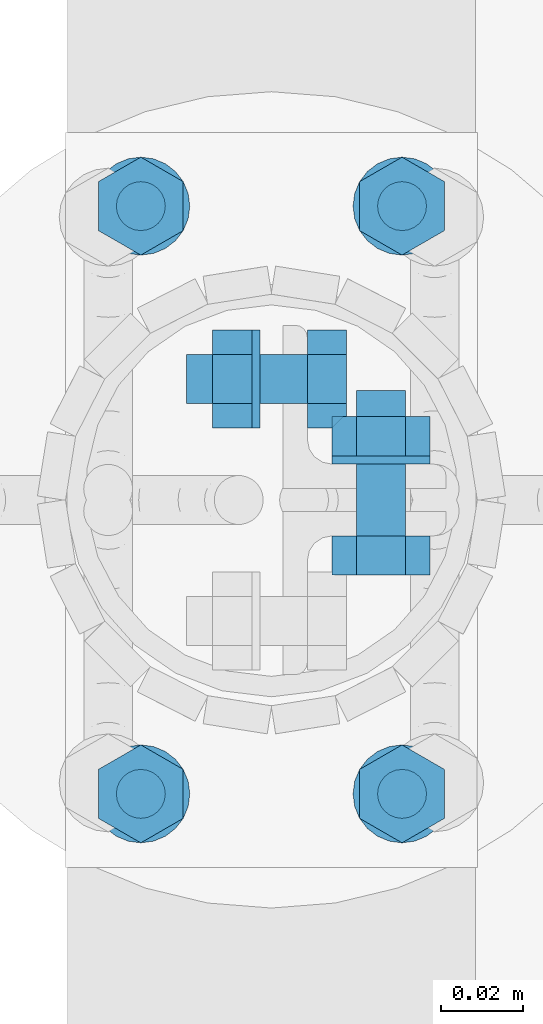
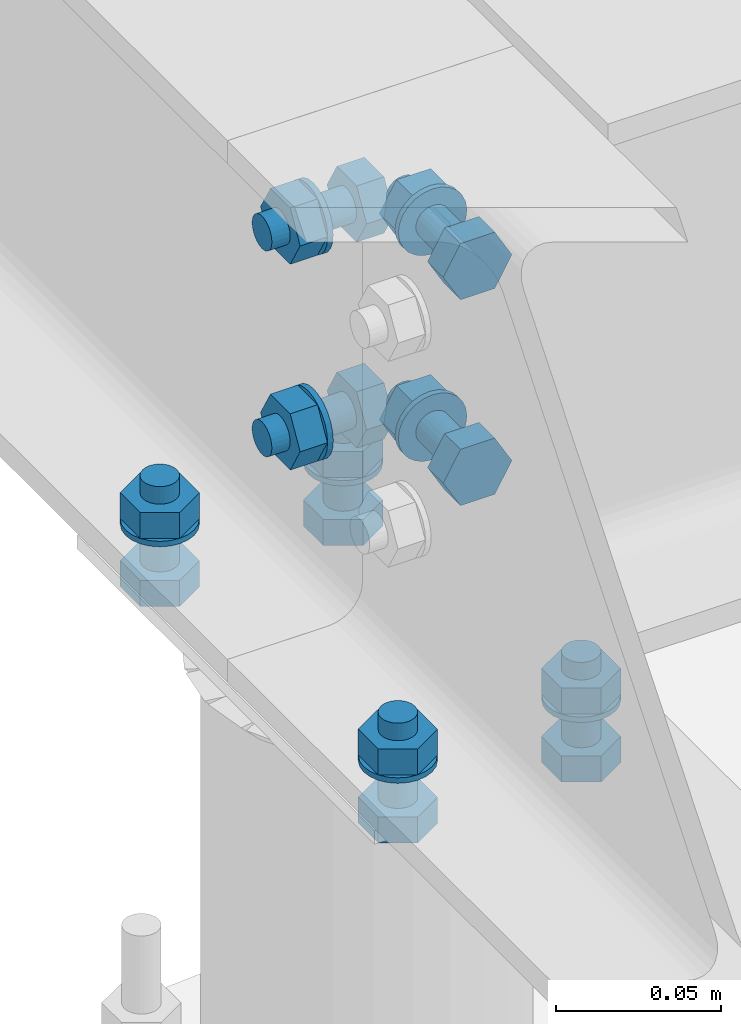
# One storey, part 50 of 84: 40 mechanical fasteners.
"""IFC4 building model written with IfcOpenShell, lengths in metres."""

import ifcopenshell
import ifcopenshell.guid

model = None  # the IFC model being written
_history = None  # IfcOwnerHistory: only IFC2X3 demands one
_inside = {}  # id of a spatial element -> (the spatial element, [elements in it])
_under = {}  # id of a project, library or spatial element -> (it, [spatial elements below it])
_declared = {}  # id of a project -> (the project, [libraries it declares])
_typed = {}  # id of a type object -> (the type object, [elements of that type])
_made_of = {}  # id of a material, layer set ... -> (it, [elements and type objects made of it])


def new_model(schema):
    """Start an empty IFC model of exactly this schema.

    Asked for "IFC4X3", IfcOpenShell would pick the latest addendum, in which some entities
    have other attributes; the version numbers below select the first issue.
    IFC2X3 requires an IfcOwnerHistory on every rooted entity: one is made here for all.
    """
    global model, _history
    if schema == "IFC4X3":
        model = ifcopenshell.file(schema_version=(4, 3, 0, 0))
    else:
        model = ifcopenshell.file(schema=schema)
    _inside.clear()
    _under.clear()
    _declared.clear()
    _typed.clear()
    _made_of.clear()
    _history = None
    if model.schema == "IFC2X3":
        org = make("IfcOrganization", Name="unknown")
        user = make(
            "IfcPersonAndOrganization",
            ThePerson=make("IfcPerson", FamilyName="unknown"),
            TheOrganization=org,
        )
        app = make(
            "IfcApplication",
            ApplicationDeveloper=org,
            Version="unknown",
            ApplicationFullName="unknown",
            ApplicationIdentifier="unknown",
        )
        _history = make(
            "IfcOwnerHistory",
            OwningUser=user,
            OwningApplication=app,
            ChangeAction="ADDED",
            CreationDate=0,
        )
    return model


def make(cls, **values):
    """One entity of the class cls with the attributes given. An attribute that is None is left unset."""
    return model.create_entity(
        cls, **{name: value for name, value in values.items() if value is not None}
    )


def rooted(cls, **values):
    """An entity with a GlobalId (a new one), such as an element, a storey or a relation."""
    return make(cls, GlobalId=ifcopenshell.guid.new(), OwnerHistory=_history, **values)


def si_unit(unit_type, name, prefix=None):
    """IfcSIUnit, for example si_unit("LENGTHUNIT", "METRE", prefix="MILLI")."""
    return make("IfcSIUnit", UnitType=unit_type, Prefix=prefix, Name=name)


def assignment(units):
    """IfcUnitAssignment: the units of a project."""
    return None if units is None else make("IfcUnitAssignment", Units=units)


def point(xyz):
    """IfcCartesianPoint."""
    return None if xyz is None else make("IfcCartesianPoint", Coordinates=xyz)


def direction(xyz):
    """IfcDirection."""
    return None if xyz is None else make("IfcDirection", DirectionRatios=xyz)


def frame(location, z_axis=None, x_axis=None):
    """IfcAxis2Placement3D, a coordinate frame: its origin and axes. An axis left out is left unset."""
    return make(
        "IfcAxis2Placement3D",
        Location=point(location),
        Axis=direction(z_axis),
        RefDirection=direction(x_axis),
    )


def origin_with_axes():
    """The frame at (0, 0, 0) with the z axis (0, 0, 1) and the x axis (1, 0, 0) written out."""
    return frame((0.0, 0.0, 0.0), z_axis=(0.0, 0.0, 1.0), x_axis=(1.0, 0.0, 0.0))


def place(relative_to, where):
    """IfcLocalPlacement: puts the frame where relative to a parent placement (None: the world)."""
    return make(
        "IfcLocalPlacement", PlacementRelTo=relative_to, RelativePlacement=where
    )


def context(
    kind, dimensions, precision=None, world=None, true_north=None, identifier=None
):
    """IfcGeometricRepresentationContext, for example the 3D "Model" context."""
    return make(
        "IfcGeometricRepresentationContext",
        ContextIdentifier=identifier,
        ContextType=kind,
        CoordinateSpaceDimension=dimensions,
        Precision=precision,
        WorldCoordinateSystem=world,
        TrueNorth=true_north,
    )


def project(units=None, contexts=None):
    """IfcProject with its units and contexts."""
    return rooted(
        "IfcProject",
        Name="project",
        RepresentationContexts=contexts,
        UnitsInContext=assignment(units),
    )


def spatial(cls, under=None, at=None, **own):
    """A site, building, storey or space (cls), placed at a placement, below another one or the project."""
    s = rooted(cls, ObjectPlacement=at, **own)
    if under is not None:
        _under.setdefault(under.id(), (under, []))[1].append(s)
    return s


def polyline(points):
    """IfcPolyline through the points."""
    return make("IfcPolyline", Points=[point(p) for p in points])


def outline(outer, holes=None, kind="AREA"):
    """IfcArbitraryClosedProfileDef: a profile drawn as a closed curve; with holes, ...WithVoids."""
    if holes is None:
        return make("IfcArbitraryClosedProfileDef", ProfileType=kind, OuterCurve=outer)
    return make(
        "IfcArbitraryProfileDefWithVoids",
        ProfileType=kind,
        OuterCurve=outer,
        InnerCurves=holes,
    )


def extrude(swept, where, along, depth):
    """IfcExtrudedAreaSolid: the profile swept, set in the frame where, extruded along a direction by depth."""
    return make(
        "IfcExtrudedAreaSolid",
        SweptArea=swept,
        Position=where,
        ExtrudedDirection=direction(along),
        Depth=depth,
    )


def shape(context_of_items, identifier, shape_type, items):
    """IfcShapeRepresentation: the items that make up one representation, for example the "Body"."""
    return make(
        "IfcShapeRepresentation",
        ContextOfItems=context_of_items,
        RepresentationIdentifier=identifier,
        RepresentationType=shape_type,
        Items=items,
    )


def made_of(thing, what):
    """Note that an element or type object is made of a material, layer set ...; save() writes the relation."""
    if what is not None:
        _made_of.setdefault(what.id(), (what, []))[1].append(thing)
    return thing


def type_object(cls, material=None, **own):
    """A type object (cls), such as IfcWallType, which elements share."""
    return made_of(rooted(cls, **own), material)


def element(
    cls,
    number,
    at=None,
    inside=None,
    cuts=None,
    type_object=None,
    material=None,
    context=None,
    identifier="Body",
    shape_type=None,
    held_by="IfcProductDefinitionShape",
    body=None,
    shapes=None,
    **own,
):
    """One element of the class cls, such as IfcWall. Its Tag is "e" and its number.

    at: its placement. inside: the storey or other place that contains it. cuts: it is an
    opening in that element (IfcRelVoidsElement). A single representation is given by context,
    identifier, shape_type and body (its items); several are given by shapes. held_by: the class
    of the entity that holds the representations. save() writes the other relations.
    """
    e = rooted(cls, Tag="e%d" % number, ObjectPlacement=at, **own)
    if body is not None:
        shapes = [shape(context, identifier, shape_type, body)]
    if shapes is not None:
        e.Representation = make(held_by, Representations=shapes)
    if inside is not None:
        _inside.setdefault(inside.id(), (inside, []))[1].append(e)
    if cuts is not None:
        rooted(
            "IfcRelVoidsElement", RelatingBuildingElement=cuts, RelatedOpeningElement=e
        )
    if type_object is not None:
        _typed.setdefault(type_object.id(), (type_object, []))[1].append(e)
    return made_of(e, material)


def aggregate(whole, parts):
    """IfcRelAggregates: a whole, such as a stair, and the parts it consists of."""
    return rooted("IfcRelAggregates", RelatingObject=whole, RelatedObjects=parts)


def save(model, path):
    """Write the relations noted so far, then the file.

    IfcRelAggregates (storeys below a building ...), IfcRelContainedInSpatialStructure (elements
    in a storey), IfcRelDefinesByType, IfcRelAssociatesMaterial and IfcRelDeclares: one each for
    every whole, place, type object, material and project.
    """
    for whole, parts in _under.values():
        aggregate(whole, parts)
    for where, things in _inside.values():
        rooted(
            "IfcRelContainedInSpatialStructure",
            RelatedElements=things,
            RelatingStructure=where,
        )
    for kind, things in _typed.values():
        rooted("IfcRelDefinesByType", RelatedObjects=things, RelatingType=kind)
    for what, things in _made_of.values():
        rooted("IfcRelAssociatesMaterial", RelatedObjects=things, RelatingMaterial=what)
    for by, libraries in _declared.values():
        rooted("IfcRelDeclares", RelatingContext=by, RelatedDefinitions=libraries)
    model.write(path)


model = new_model("IFC4")

# Units and contexts
model_context = context("Model", 3, precision=1e-05, world=origin_with_axes())
ifc_project = project(units=[si_unit("LENGTHUNIT", "METRE"), si_unit("AREAUNIT", "SQUARE_METRE"), si_unit("VOLUMEUNIT", "CUBIC_METRE"), si_unit("MASSUNIT", "GRAM", prefix="KILO"), si_unit("TIMEUNIT", "SECOND"), si_unit("PLANEANGLEUNIT", "RADIAN"), si_unit("SOLIDANGLEUNIT", "STERADIAN"), si_unit("THERMODYNAMICTEMPERATUREUNIT", "DEGREE_CELSIUS")], contexts=[model_context])

# Site, building, storey
placement_1 = place(None, origin_with_axes())
site = spatial("IfcSite", under=ifc_project, at=placement_1, Name="Italia", CompositionType="ELEMENT")
building = spatial("IfcBuilding", under=site, at=placement_1, Name="Tettoia", CompositionType="ELEMENT")
storey_placement = place(None, frame((0.0, 0.0, 4.199999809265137), z_axis=(0.0, 0.0, 1.0), x_axis=(1.0, 0.0, 0.0)))
storey = spatial("IfcBuildingStorey", under=building, at=storey_placement, Name="Storey 1", CompositionType="ELEMENT", Elevation=4.199999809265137)

# Mechanical fasteners
mechanical_fastener_type_1 = type_object("IfcMechanicalFastenerType", Name="Collegamento 0111_-011", PredefinedType="BOLT")
placement_2 = place(placement_1, origin_with_axes())
mechanical_fastener_1_placement = place(placement_2, origin_with_axes())
element("IfcMechanicalFastener", 1, at=mechanical_fastener_1_placement, inside=storey, type_object=mechanical_fastener_type_1, Name="Collegamento 0111_-011", NominalDiameter=0.0119998, context=model_context, shape_type="SweptSolid", body=[
    extrude(outline(polyline([(0.0, 0.0), (0.0120001, 0.0), (0.0179996, -0.0103923), (0.0120001, -0.0207846), (0.0, -0.0207846), (-0.00599957, -0.0103923), (0.0, 0.0)])), frame((0.142392, 14.016, 4.195), z_axis=(0.0, 0.0, -1.0), x_axis=(0.0, 1.0, 0.0)), (0.0, 0.0, 1.0), 0.00959969),
])
mechanical_fastener_type_2 = type_object("IfcMechanicalFastenerType", Name="Collegamento 0111_-011", PredefinedType="BOLT")
mechanical_fastener_2_placement = place(placement_2, origin_with_axes())
element("IfcMechanicalFastener", 2, at=mechanical_fastener_2_placement, inside=storey, type_object=mechanical_fastener_type_2, Name="Collegamento 0111_-011", NominalDiameter=0.012, context=model_context, shape_type="SweptSolid", body=[
    extrude(outline(polyline([(0.0, 0.0), (-0.000204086, -0.00155291), (-0.000802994, -0.00300001), (-0.00175667, -0.00424264), (-0.00299931, -0.00519615), (-0.00444698, -0.00579555), (-0.00599957, -0.006), (-0.00755215, -0.00579555), (-0.00899982, -0.00519615), (-0.0102425, -0.00424264), (-0.0111961, -0.00300001), (-0.011795, -0.00155291), (-0.0119991, 0.0), (-0.011795, 0.00155291), (-0.0111961, 0.00300001), (-0.0102425, 0.00424264), (-0.00899982, 0.00519615), (-0.00755215, 0.00579555), (-0.00599957, 0.006), (-0.00444698, 0.00579555), (-0.00299931, 0.00519615), (-0.00175667, 0.00424264), (-0.000802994, 0.00299999), (-0.000204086, 0.00155291), (0.0, 0.0)])), frame((0.132, 14.028, 4.2265), z_axis=(0.0, 0.0, -1.0), x_axis=(0.0, 1.0, 0.0)), (0.0, 0.0, 1.0), 0.0315003),
])
mechanical_fastener_type_3 = type_object("IfcMechanicalFastenerType", Name="Collegamento 0111_-011", PredefinedType="BOLT")
mechanical_fastener_3_placement = place(placement_2, origin_with_axes())
element("IfcMechanicalFastener", 3, at=mechanical_fastener_3_placement, inside=storey, type_object=mechanical_fastener_type_3, Name="Collegamento 0111_-011", NominalDiameter=0.0119998, context=model_context, shape_type="SweptSolid", body=[
    extrude(outline(polyline([(0.0, 0.0), (0.0120001, 0.0), (0.0179996, -0.0103923), (0.0120001, -0.0207846), (0.0, -0.0207846), (-0.00599957, -0.0103923), (0.0, 0.0)])), frame((0.142392, 14.016, 4.2201), z_axis=(0.0, 0.0, -1.0), x_axis=(0.0, 1.0, 0.0)), (0.0, 0.0, 1.0), 0.00960016),
])
mechanical_fastener_type_4 = type_object("IfcMechanicalFastenerType", Name="Collegamento 0111_-011", PredefinedType="BOLT")
mechanical_fastener_4_placement = place(placement_2, origin_with_axes())
element("IfcMechanicalFastener", 4, at=mechanical_fastener_4_placement, inside=storey, type_object=mechanical_fastener_type_4, Name="Collegamento 0111_-011", NominalDiameter=0.024, context=model_context, shape_type="SweptSolid", body=[
    extrude(outline(polyline([(0.0, 0.0), (-0.000409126, -0.00310583), (-0.00160789, -0.006), (-0.00351524, -0.00848528), (-0.00600052, -0.0103923), (-0.00889397, -0.0115911), (-0.0120001, -0.012), (-0.0151062, -0.0115911), (-0.0179996, -0.0103923), (-0.0204849, -0.00848528), (-0.0223923, -0.006), (-0.023591, -0.00310583), (-0.0240002, 0.0), (-0.023591, 0.00310583), (-0.0223923, 0.006), (-0.0204849, 0.00848529), (-0.0179996, 0.0103923), (-0.0151062, 0.0115911), (-0.0120001, 0.012), (-0.00889397, 0.0115911), (-0.00600052, 0.0103923), (-0.00351524, 0.00848527), (-0.00160789, 0.006), (-0.000409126, 0.00310582), (0.0, 0.0)])), frame((0.132, 14.034, 4.2105), z_axis=(0.0, 0.0, -1.0), x_axis=(0.0, 1.0, 0.0)), (0.0, 0.0, 1.0), 0.00199986),
])
mechanical_fastener_type_5 = type_object("IfcMechanicalFastenerType", Name="Collegamento 0111_-011", PredefinedType="BOLT")
mechanical_fastener_5_placement = place(placement_2, origin_with_axes())
element("IfcMechanicalFastener", 5, at=mechanical_fastener_5_placement, inside=storey, type_object=mechanical_fastener_type_5, Name="Collegamento 0111_-011", NominalDiameter=0.0119998, context=model_context, shape_type="SweptSolid", body=[
    extrude(outline(polyline([(0.0, 0.0), (0.0120001, 0.0), (0.0179996, -0.0103923), (0.0120001, -0.0207846), (0.0, -0.0207846), (-0.00599957, -0.0103923), (0.0, 0.0)])), frame((0.142392, 13.872, 4.195), z_axis=(0.0, 0.0, -1.0), x_axis=(0.0, 1.0, 0.0)), (0.0, 0.0, 1.0), 0.00959969),
])
mechanical_fastener_type_6 = type_object("IfcMechanicalFastenerType", Name="Collegamento 0111_-011", PredefinedType="BOLT")
mechanical_fastener_6_placement = place(placement_2, origin_with_axes())
element("IfcMechanicalFastener", 6, at=mechanical_fastener_6_placement, inside=storey, type_object=mechanical_fastener_type_6, Name="Collegamento 0111_-011", NominalDiameter=0.012, context=model_context, shape_type="SweptSolid", body=[
    extrude(outline(polyline([(0.0, 0.0), (-0.000204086, -0.00155291), (-0.000802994, -0.00300001), (-0.00175667, -0.00424264), (-0.00299931, -0.00519615), (-0.00444698, -0.00579555), (-0.00599957, -0.006), (-0.00755215, -0.00579555), (-0.00899982, -0.00519615), (-0.0102425, -0.00424264), (-0.0111961, -0.00300001), (-0.011795, -0.00155291), (-0.0119991, 0.0), (-0.011795, 0.00155291), (-0.0111961, 0.00300001), (-0.0102425, 0.00424264), (-0.00899982, 0.00519615), (-0.00755215, 0.00579555), (-0.00599957, 0.006), (-0.00444698, 0.00579555), (-0.00299931, 0.00519615), (-0.00175667, 0.00424264), (-0.000802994, 0.00299999), (-0.000204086, 0.00155291), (0.0, 0.0)])), frame((0.132, 13.884, 4.2265), z_axis=(0.0, 0.0, -1.0), x_axis=(0.0, 1.0, 0.0)), (0.0, 0.0, 1.0), 0.0315003),
])
mechanical_fastener_type_7 = type_object("IfcMechanicalFastenerType", Name="Collegamento 0111_-011", PredefinedType="BOLT")
mechanical_fastener_7_placement = place(placement_2, origin_with_axes())
element("IfcMechanicalFastener", 7, at=mechanical_fastener_7_placement, inside=storey, type_object=mechanical_fastener_type_7, Name="Collegamento 0111_-011", NominalDiameter=0.0119998, context=model_context, shape_type="SweptSolid", body=[
    extrude(outline(polyline([(0.0, 0.0), (0.0120001, 0.0), (0.0179996, -0.0103923), (0.0120001, -0.0207846), (0.0, -0.0207846), (-0.00599957, -0.0103923), (0.0, 0.0)])), frame((0.142392, 13.872, 4.2201), z_axis=(0.0, 0.0, -1.0), x_axis=(0.0, 1.0, 0.0)), (0.0, 0.0, 1.0), 0.00960016),
])
mechanical_fastener_type_8 = type_object("IfcMechanicalFastenerType", Name="Collegamento 0111_-011", PredefinedType="BOLT")
mechanical_fastener_8_placement = place(placement_2, origin_with_axes())
element("IfcMechanicalFastener", 8, at=mechanical_fastener_8_placement, inside=storey, type_object=mechanical_fastener_type_8, Name="Collegamento 0111_-011", NominalDiameter=0.024, context=model_context, shape_type="SweptSolid", body=[
    extrude(outline(polyline([(0.0, 0.0), (-0.000409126, -0.00310583), (-0.00160789, -0.006), (-0.00351524, -0.00848528), (-0.00600052, -0.0103923), (-0.00889397, -0.0115911), (-0.0120001, -0.012), (-0.0151062, -0.0115911), (-0.0179996, -0.0103923), (-0.0204849, -0.00848528), (-0.0223923, -0.006), (-0.023591, -0.00310583), (-0.0240002, 0.0), (-0.023591, 0.00310583), (-0.0223923, 0.006), (-0.0204849, 0.00848529), (-0.0179996, 0.0103923), (-0.0151062, 0.0115911), (-0.0120001, 0.012), (-0.00889397, 0.0115911), (-0.00600052, 0.0103923), (-0.00351524, 0.00848527), (-0.00160789, 0.006), (-0.000409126, 0.00310582), (0.0, 0.0)])), frame((0.132, 13.89, 4.2105), z_axis=(0.0, 0.0, -1.0), x_axis=(0.0, 1.0, 0.0)), (0.0, 0.0, 1.0), 0.00199986),
])
mechanical_fastener_type_9 = type_object("IfcMechanicalFastenerType", Name="Collegamento 0111_-011", PredefinedType="BOLT")
mechanical_fastener_9_placement = place(placement_2, origin_with_axes())
element("IfcMechanicalFastener", 9, at=mechanical_fastener_9_placement, inside=storey, type_object=mechanical_fastener_type_9, Name="Collegamento 0111_-011", NominalDiameter=0.0119998, context=model_context, shape_type="SweptSolid", body=[
    extrude(outline(polyline([(0.0, 0.0), (0.0120001, 0.0), (0.0179996, -0.0103923), (0.0120001, -0.0207846), (0.0, -0.0207846), (-0.00599957, -0.0103923), (0.0, 0.0)])), frame((0.0783923, 14.016, 4.195), z_axis=(0.0, 0.0, -1.0), x_axis=(0.0, 1.0, 0.0)), (0.0, 0.0, 1.0), 0.00959969),
])
mechanical_fastener_type_10 = type_object("IfcMechanicalFastenerType", Name="Collegamento 0111_-011", PredefinedType="BOLT")
mechanical_fastener_10_placement = place(placement_2, origin_with_axes())
element("IfcMechanicalFastener", 10, at=mechanical_fastener_10_placement, inside=storey, type_object=mechanical_fastener_type_10, Name="Collegamento 0111_-011", NominalDiameter=0.012, context=model_context, shape_type="SweptSolid", body=[
    extrude(outline(polyline([(0.0, 0.0), (-0.000204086, -0.00155292), (-0.000802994, -0.003), (-0.00175667, -0.00424264), (-0.00299931, -0.00519615), (-0.00444698, -0.00579555), (-0.00599957, -0.006), (-0.00755215, -0.00579555), (-0.00899982, -0.00519615), (-0.0102425, -0.00424264), (-0.0111961, -0.003), (-0.011795, -0.00155292), (-0.0119991, 0.0), (-0.011795, 0.00155292), (-0.0111961, 0.003), (-0.0102425, 0.00424264), (-0.00899982, 0.00519615), (-0.00755215, 0.00579555), (-0.00599957, 0.006), (-0.00444698, 0.00579555), (-0.00299931, 0.00519615), (-0.00175667, 0.00424264), (-0.000802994, 0.003), (-0.000204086, 0.00155291), (0.0, 0.0)])), frame((0.068, 14.028, 4.2265), z_axis=(0.0, 0.0, -1.0), x_axis=(0.0, 1.0, 0.0)), (0.0, 0.0, 1.0), 0.0315003),
])
mechanical_fastener_type_11 = type_object("IfcMechanicalFastenerType", Name="Collegamento 0111_-011", PredefinedType="BOLT")
mechanical_fastener_11_placement = place(placement_2, origin_with_axes())
element("IfcMechanicalFastener", 11, at=mechanical_fastener_11_placement, inside=storey, type_object=mechanical_fastener_type_11, Name="Collegamento 0111_-011", NominalDiameter=0.0119998, context=model_context, shape_type="SweptSolid", body=[
    extrude(outline(polyline([(0.0, 0.0), (0.0120001, 0.0), (0.0179996, -0.0103923), (0.0120001, -0.0207846), (0.0, -0.0207846), (-0.00599957, -0.0103923), (0.0, 0.0)])), frame((0.0783923, 14.016, 4.2201), z_axis=(0.0, 0.0, -1.0), x_axis=(0.0, 1.0, 0.0)), (0.0, 0.0, 1.0), 0.00960016),
])
mechanical_fastener_type_12 = type_object("IfcMechanicalFastenerType", Name="Collegamento 0111_-011", PredefinedType="BOLT")
mechanical_fastener_12_placement = place(placement_2, origin_with_axes())
element("IfcMechanicalFastener", 12, at=mechanical_fastener_12_placement, inside=storey, type_object=mechanical_fastener_type_12, Name="Collegamento 0111_-011", NominalDiameter=0.024, context=model_context, shape_type="SweptSolid", body=[
    extrude(outline(polyline([(0.0, 0.0), (-0.000409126, -0.00310583), (-0.00160789, -0.006), (-0.00351524, -0.00848528), (-0.00600052, -0.0103923), (-0.00889397, -0.0115911), (-0.0120001, -0.012), (-0.0151062, -0.0115911), (-0.0179996, -0.0103923), (-0.0204849, -0.00848528), (-0.0223923, -0.006), (-0.023591, -0.00310583), (-0.0240002, 0.0), (-0.023591, 0.00310583), (-0.0223923, 0.006), (-0.0204849, 0.00848528), (-0.0179996, 0.0103923), (-0.0151062, 0.0115911), (-0.0120001, 0.012), (-0.00889397, 0.0115911), (-0.00600052, 0.0103923), (-0.00351524, 0.00848528), (-0.00160789, 0.006), (-0.000409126, 0.00310583), (0.0, 0.0)])), frame((0.068, 14.034, 4.2105), z_axis=(0.0, 0.0, -1.0), x_axis=(0.0, 1.0, 0.0)), (0.0, 0.0, 1.0), 0.00199986),
])
mechanical_fastener_type_13 = type_object("IfcMechanicalFastenerType", Name="Collegamento 0111_-011", PredefinedType="BOLT")
mechanical_fastener_13_placement = place(placement_2, origin_with_axes())
element("IfcMechanicalFastener", 13, at=mechanical_fastener_13_placement, inside=storey, type_object=mechanical_fastener_type_13, Name="Collegamento 0111_-011", NominalDiameter=0.0119998, context=model_context, shape_type="SweptSolid", body=[
    extrude(outline(polyline([(0.0, 0.0), (0.0120001, 0.0), (0.0179996, -0.0103923), (0.0120001, -0.0207846), (0.0, -0.0207846), (-0.00599957, -0.0103923), (0.0, 0.0)])), frame((0.0783923, 13.872, 4.195), z_axis=(0.0, 0.0, -1.0), x_axis=(0.0, 1.0, 0.0)), (0.0, 0.0, 1.0), 0.00959969),
])
mechanical_fastener_type_14 = type_object("IfcMechanicalFastenerType", Name="Collegamento 0111_-011", PredefinedType="BOLT")
mechanical_fastener_14_placement = place(placement_2, origin_with_axes())
element("IfcMechanicalFastener", 14, at=mechanical_fastener_14_placement, inside=storey, type_object=mechanical_fastener_type_14, Name="Collegamento 0111_-011", NominalDiameter=0.012, context=model_context, shape_type="SweptSolid", body=[
    extrude(outline(polyline([(0.0, 0.0), (-0.000204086, -0.00155292), (-0.000802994, -0.003), (-0.00175667, -0.00424264), (-0.00299931, -0.00519615), (-0.00444698, -0.00579555), (-0.00599957, -0.006), (-0.00755215, -0.00579555), (-0.00899982, -0.00519615), (-0.0102425, -0.00424264), (-0.0111961, -0.003), (-0.011795, -0.00155292), (-0.0119991, 0.0), (-0.011795, 0.00155292), (-0.0111961, 0.003), (-0.0102425, 0.00424264), (-0.00899982, 0.00519615), (-0.00755215, 0.00579555), (-0.00599957, 0.006), (-0.00444698, 0.00579555), (-0.00299931, 0.00519615), (-0.00175667, 0.00424264), (-0.000802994, 0.003), (-0.000204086, 0.00155291), (0.0, 0.0)])), frame((0.068, 13.884, 4.2265), z_axis=(0.0, 0.0, -1.0), x_axis=(0.0, 1.0, 0.0)), (0.0, 0.0, 1.0), 0.0315003),
])
mechanical_fastener_type_15 = type_object("IfcMechanicalFastenerType", Name="Collegamento 0111_-011", PredefinedType="BOLT")
mechanical_fastener_15_placement = place(placement_2, origin_with_axes())
element("IfcMechanicalFastener", 15, at=mechanical_fastener_15_placement, inside=storey, type_object=mechanical_fastener_type_15, Name="Collegamento 0111_-011", NominalDiameter=0.0119998, context=model_context, shape_type="SweptSolid", body=[
    extrude(outline(polyline([(0.0, 0.0), (0.0120001, 0.0), (0.0179996, -0.0103923), (0.0120001, -0.0207846), (0.0, -0.0207846), (-0.00599957, -0.0103923), (0.0, 0.0)])), frame((0.0783923, 13.872, 4.2201), z_axis=(0.0, 0.0, -1.0), x_axis=(0.0, 1.0, 0.0)), (0.0, 0.0, 1.0), 0.00960016),
])
mechanical_fastener_type_16 = type_object("IfcMechanicalFastenerType", Name="Collegamento 0111_-011", PredefinedType="BOLT")
mechanical_fastener_16_placement = place(placement_2, origin_with_axes())
element("IfcMechanicalFastener", 16, at=mechanical_fastener_16_placement, inside=storey, type_object=mechanical_fastener_type_16, Name="Collegamento 0111_-011", NominalDiameter=0.024, context=model_context, shape_type="SweptSolid", body=[
    extrude(outline(polyline([(0.0, 0.0), (-0.000409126, -0.00310583), (-0.00160789, -0.006), (-0.00351524, -0.00848528), (-0.00600052, -0.0103923), (-0.00889397, -0.0115911), (-0.0120001, -0.012), (-0.0151062, -0.0115911), (-0.0179996, -0.0103923), (-0.0204849, -0.00848528), (-0.0223923, -0.006), (-0.023591, -0.00310583), (-0.0240002, 0.0), (-0.023591, 0.00310583), (-0.0223923, 0.006), (-0.0204849, 0.00848528), (-0.0179996, 0.0103923), (-0.0151062, 0.0115911), (-0.0120001, 0.012), (-0.00889397, 0.0115911), (-0.00600052, 0.0103923), (-0.00351524, 0.00848528), (-0.00160789, 0.006), (-0.000409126, 0.00310583), (0.0, 0.0)])), frame((0.068, 13.89, 4.2105), z_axis=(0.0, 0.0, -1.0), x_axis=(0.0, 1.0, 0.0)), (0.0, 0.0, 1.0), 0.00199986),
])
mechanical_fastener_type_17 = type_object("IfcMechanicalFastenerType", Name="Collegamento 0111_0112", PredefinedType="BOLT")
mechanical_fastener_17_placement = place(placement_2, origin_with_axes())
element("IfcMechanicalFastener", 17, at=mechanical_fastener_17_placement, inside=storey, type_object=mechanical_fastener_type_17, Name="Collegamento 0111_0112", NominalDiameter=0.0119999, context=model_context, shape_type="SweptSolid", body=[
    extrude(outline(polyline([(0.0, 0.0), (-0.012, 0.0), (-0.018, 0.0103922), (-0.012, 0.0207844), (0.0, 0.0207844), (0.006, 0.0103922), (0.0, 0.0)])), frame((0.1328, 13.9412, 4.25161), z_axis=(0.0, -1.0, 0.0), x_axis=(1.0, 0.0, 0.0)), (0.0, 0.0, 1.0), 0.00960064),
])
mechanical_fastener_type_18 = type_object("IfcMechanicalFastenerType", Name="Collegamento 0111_0112", PredefinedType="BOLT")
mechanical_fastener_18_placement = place(placement_2, origin_with_axes())
element("IfcMechanicalFastener", 18, at=mechanical_fastener_18_placement, inside=storey, type_object=mechanical_fastener_type_18, Name="Collegamento 0111_0112", NominalDiameter=0.012, context=model_context, shape_type="SweptSolid", body=[
    extrude(outline(polyline([(0.0, 0.0), (-0.000204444, -0.00155306), (-0.000803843, -0.00299978), (-0.00175735, -0.00424242), (-0.00299999, -0.00519609), (-0.00444709, -0.00579548), (-0.006, -0.00600004), (-0.00755291, -0.00579548), (-0.009, -0.00519609), (-0.0102426, -0.00424242), (-0.0111962, -0.00299978), (-0.0117956, -0.00155306), (-0.012, 0.0), (-0.0117956, 0.00155306), (-0.0111962, 0.00299978), (-0.0102426, 0.00424242), (-0.009, 0.00519609), (-0.00755291, 0.00579548), (-0.006, 0.00600004), (-0.00444709, 0.00579548), (-0.00299999, 0.00519609), (-0.00175735, 0.00424242), (-0.000803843, 0.00299978), (-0.000204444, 0.00155306), (0.0, 0.0)])), frame((0.1328, 13.9768, 4.262), z_axis=(0.0, -1.0, 0.0), x_axis=(1.0, 0.0, 0.0)), (0.0, 0.0, 1.0), 0.0355997),
])
mechanical_fastener_type_19 = type_object("IfcMechanicalFastenerType", Name="Collegamento 0111_0112", PredefinedType="BOLT")
mechanical_fastener_19_placement = place(placement_2, origin_with_axes())
element("IfcMechanicalFastener", 19, at=mechanical_fastener_19_placement, inside=storey, type_object=mechanical_fastener_type_19, Name="Collegamento 0111_0112", NominalDiameter=0.0119999, context=model_context, shape_type="SweptSolid", body=[
    extrude(outline(polyline([(0.0, 0.0), (-0.012, 0.0), (-0.018, 0.0103922), (-0.012, 0.0207844), (0.0, 0.0207844), (0.006, 0.0103922), (0.0, 0.0)])), frame((0.1328, 13.9704, 4.25161), z_axis=(0.0, -1.0, 0.0), x_axis=(1.0, 0.0, 0.0)), (0.0, 0.0, 1.0), 0.00959969),
])
mechanical_fastener_type_20 = type_object("IfcMechanicalFastenerType", Name="Collegamento 0111_0112", PredefinedType="BOLT")
mechanical_fastener_20_placement = place(placement_2, origin_with_axes())
element("IfcMechanicalFastener", 20, at=mechanical_fastener_20_placement, inside=storey, type_object=mechanical_fastener_type_20, Name="Collegamento 0111_0112", NominalDiameter=0.024, context=model_context, shape_type="SweptSolid", body=[
    extrude(outline(polyline([(0.0, 0.0), (-0.000408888, -0.00310564), (-0.00160769, -0.00600004), (-0.00351471, -0.00848532), (-0.006, -0.0103922), (-0.00889416, -0.011591), (-0.012, -0.0120001), (-0.0151058, -0.011591), (-0.018, -0.0103922), (-0.0204853, -0.00848532), (-0.0223923, -0.00600004), (-0.0235911, -0.00310564), (-0.024, 0.0), (-0.0235911, 0.00310564), (-0.0223923, 0.00600004), (-0.0204853, 0.00848532), (-0.018, 0.0103922), (-0.0151058, 0.011591), (-0.012, 0.0120001), (-0.00889416, 0.011591), (-0.006, 0.0103922), (-0.00351471, 0.00848532), (-0.00160769, 0.00600004), (-0.000408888, 0.00310564), (0.0, 0.0)])), frame((0.1388, 13.9608, 4.262), z_axis=(0.0, -1.0, 0.0), x_axis=(1.0, 0.0, 0.0)), (0.0, 0.0, 1.0), 0.00200081),
])
mechanical_fastener_type_21 = type_object("IfcMechanicalFastenerType", Name="Collegamento 0111_0112", PredefinedType="BOLT")
mechanical_fastener_21_placement = place(placement_2, origin_with_axes())
element("IfcMechanicalFastener", 21, at=mechanical_fastener_21_placement, inside=storey, type_object=mechanical_fastener_type_21, Name="Collegamento 0111_0112", NominalDiameter=0.0119999, context=model_context, shape_type="SweptSolid", body=[
    extrude(outline(polyline([(0.0, 0.0), (-0.012, 0.0), (-0.018, 0.0103922), (-0.012, 0.0207844), (0.0, 0.0207844), (0.006, 0.0103922), (0.0, 0.0)])), frame((0.1328, 13.9412, 4.32761), z_axis=(0.0, -1.0, 0.0), x_axis=(1.0, 0.0, 0.0)), (0.0, 0.0, 1.0), 0.00960064),
])
mechanical_fastener_type_22 = type_object("IfcMechanicalFastenerType", Name="Collegamento 0111_0112", PredefinedType="BOLT")
mechanical_fastener_22_placement = place(placement_2, origin_with_axes())
element("IfcMechanicalFastener", 22, at=mechanical_fastener_22_placement, inside=storey, type_object=mechanical_fastener_type_22, Name="Collegamento 0111_0112", NominalDiameter=0.012, context=model_context, shape_type="SweptSolid", body=[
    extrude(outline(polyline([(0.0, 0.0), (-0.000204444, -0.00155306), (-0.000803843, -0.00299978), (-0.00175735, -0.00424242), (-0.00299999, -0.00519609), (-0.00444709, -0.00579548), (-0.006, -0.00600004), (-0.00755291, -0.00579548), (-0.009, -0.00519609), (-0.0102426, -0.00424242), (-0.0111962, -0.00299978), (-0.0117956, -0.00155306), (-0.012, 0.0), (-0.0117956, 0.00155306), (-0.0111962, 0.00299978), (-0.0102426, 0.00424242), (-0.009, 0.00519609), (-0.00755291, 0.00579548), (-0.006, 0.00600004), (-0.00444709, 0.00579548), (-0.00299999, 0.00519609), (-0.00175735, 0.00424242), (-0.000803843, 0.00299978), (-0.000204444, 0.00155306), (0.0, 0.0)])), frame((0.1328, 13.9768, 4.338), z_axis=(0.0, -1.0, 0.0), x_axis=(1.0, 0.0, 0.0)), (0.0, 0.0, 1.0), 0.0355997),
])
mechanical_fastener_type_23 = type_object("IfcMechanicalFastenerType", Name="Collegamento 0111_0112", PredefinedType="BOLT")
mechanical_fastener_23_placement = place(placement_2, origin_with_axes())
element("IfcMechanicalFastener", 23, at=mechanical_fastener_23_placement, inside=storey, type_object=mechanical_fastener_type_23, Name="Collegamento 0111_0112", NominalDiameter=0.0119999, context=model_context, shape_type="SweptSolid", body=[
    extrude(outline(polyline([(0.0, 0.0), (-0.012, 0.0), (-0.018, 0.0103922), (-0.012, 0.0207844), (0.0, 0.0207844), (0.006, 0.0103922), (0.0, 0.0)])), frame((0.1328, 13.9704, 4.32761), z_axis=(0.0, -1.0, 0.0), x_axis=(1.0, 0.0, 0.0)), (0.0, 0.0, 1.0), 0.00959969),
])
mechanical_fastener_type_24 = type_object("IfcMechanicalFastenerType", Name="Collegamento 0111_0112", PredefinedType="BOLT")
mechanical_fastener_24_placement = place(placement_2, origin_with_axes())
element("IfcMechanicalFastener", 24, at=mechanical_fastener_24_placement, inside=storey, type_object=mechanical_fastener_type_24, Name="Collegamento 0111_0112", NominalDiameter=0.024, context=model_context, shape_type="SweptSolid", body=[
    extrude(outline(polyline([(0.0, 0.0), (-0.000408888, -0.00310564), (-0.00160769, -0.00600004), (-0.00351471, -0.00848532), (-0.006, -0.0103922), (-0.00889416, -0.011591), (-0.012, -0.0120001), (-0.0151058, -0.011591), (-0.018, -0.0103922), (-0.0204853, -0.00848532), (-0.0223923, -0.00600004), (-0.0235911, -0.00310564), (-0.024, 0.0), (-0.0235911, 0.00310564), (-0.0223923, 0.00600004), (-0.0204853, 0.00848532), (-0.018, 0.0103922), (-0.0151058, 0.011591), (-0.012, 0.0120001), (-0.00889416, 0.011591), (-0.006, 0.0103922), (-0.00351471, 0.00848532), (-0.00160769, 0.00600004), (-0.000408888, 0.00310564), (0.0, 0.0)])), frame((0.1388, 13.9608, 4.338), z_axis=(0.0, -1.0, 0.0), x_axis=(1.0, 0.0, 0.0)), (0.0, 0.0, 1.0), 0.00200081),
])
mechanical_fastener_type_25 = type_object("IfcMechanicalFastenerType", Name="Collegamento 0111_0112", PredefinedType="BOLT")
mechanical_fastener_25_placement = place(placement_2, origin_with_axes())
element("IfcMechanicalFastener", 25, at=mechanical_fastener_25_placement, inside=storey, type_object=mechanical_fastener_type_25, Name="Collegamento 0111_0112", NominalDiameter=0.0119999, context=model_context, shape_type="SweptSolid", body=[
    extrude(outline(polyline([(0.0, 0.0), (-0.012, 0.0), (-0.018, 0.0103922), (-0.012, 0.0207844), (0.0, 0.0207844), (0.006, 0.0103922), (0.0, 0.0)])), frame((0.1328, 13.9412, 4.25161), z_axis=(0.0, -1.0, 0.0), x_axis=(1.0, 0.0, 0.0)), (0.0, 0.0, 1.0), 0.00960064),
])
mechanical_fastener_type_26 = type_object("IfcMechanicalFastenerType", Name="Collegamento 0111_0112", PredefinedType="BOLT")
mechanical_fastener_26_placement = place(placement_2, origin_with_axes())
element("IfcMechanicalFastener", 26, at=mechanical_fastener_26_placement, inside=storey, type_object=mechanical_fastener_type_26, Name="Collegamento 0111_0112", NominalDiameter=0.012, context=model_context, shape_type="SweptSolid", body=[
    extrude(outline(polyline([(0.0, 0.0), (-0.000204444, -0.00155306), (-0.000803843, -0.00299978), (-0.00175735, -0.00424242), (-0.00299999, -0.00519609), (-0.00444709, -0.00579548), (-0.006, -0.00600004), (-0.00755291, -0.00579548), (-0.009, -0.00519609), (-0.0102426, -0.00424242), (-0.0111962, -0.00299978), (-0.0117956, -0.00155306), (-0.012, 0.0), (-0.0117956, 0.00155306), (-0.0111962, 0.00299978), (-0.0102426, 0.00424242), (-0.009, 0.00519609), (-0.00755291, 0.00579548), (-0.006, 0.00600004), (-0.00444709, 0.00579548), (-0.00299999, 0.00519609), (-0.00175735, 0.00424242), (-0.000803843, 0.00299978), (-0.000204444, 0.00155306), (0.0, 0.0)])), frame((0.1328, 13.9768, 4.262), z_axis=(0.0, -1.0, 0.0), x_axis=(1.0, 0.0, 0.0)), (0.0, 0.0, 1.0), 0.0355997),
])
mechanical_fastener_type_27 = type_object("IfcMechanicalFastenerType", Name="Collegamento 0111_0112", PredefinedType="BOLT")
mechanical_fastener_27_placement = place(placement_2, origin_with_axes())
element("IfcMechanicalFastener", 27, at=mechanical_fastener_27_placement, inside=storey, type_object=mechanical_fastener_type_27, Name="Collegamento 0111_0112", NominalDiameter=0.0119999, context=model_context, shape_type="SweptSolid", body=[
    extrude(outline(polyline([(0.0, 0.0), (-0.012, 0.0), (-0.018, 0.0103922), (-0.012, 0.0207844), (0.0, 0.0207844), (0.006, 0.0103922), (0.0, 0.0)])), frame((0.1328, 13.9704, 4.25161), z_axis=(0.0, -1.0, 0.0), x_axis=(1.0, 0.0, 0.0)), (0.0, 0.0, 1.0), 0.00959969),
])
mechanical_fastener_type_28 = type_object("IfcMechanicalFastenerType", Name="Collegamento 0111_0112", PredefinedType="BOLT")
mechanical_fastener_28_placement = place(placement_2, origin_with_axes())
element("IfcMechanicalFastener", 28, at=mechanical_fastener_28_placement, inside=storey, type_object=mechanical_fastener_type_28, Name="Collegamento 0111_0112", NominalDiameter=0.024, context=model_context, shape_type="SweptSolid", body=[
    extrude(outline(polyline([(0.0, 0.0), (-0.000408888, -0.00310564), (-0.00160769, -0.00600004), (-0.00351471, -0.00848532), (-0.006, -0.0103922), (-0.00889416, -0.011591), (-0.012, -0.0120001), (-0.0151058, -0.011591), (-0.018, -0.0103922), (-0.0204853, -0.00848532), (-0.0223923, -0.00600004), (-0.0235911, -0.00310564), (-0.024, 0.0), (-0.0235911, 0.00310564), (-0.0223923, 0.00600004), (-0.0204853, 0.00848532), (-0.018, 0.0103922), (-0.0151058, 0.011591), (-0.012, 0.0120001), (-0.00889416, 0.011591), (-0.006, 0.0103922), (-0.00351471, 0.00848532), (-0.00160769, 0.00600004), (-0.000408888, 0.00310564), (0.0, 0.0)])), frame((0.1388, 13.9608, 4.262), z_axis=(0.0, -1.0, 0.0), x_axis=(1.0, 0.0, 0.0)), (0.0, 0.0, 1.0), 0.00200081),
])
mechanical_fastener_type_29 = type_object("IfcMechanicalFastenerType", Name="Collegamento 0111_0112", PredefinedType="BOLT")
mechanical_fastener_29_placement = place(placement_2, origin_with_axes())
element("IfcMechanicalFastener", 29, at=mechanical_fastener_29_placement, inside=storey, type_object=mechanical_fastener_type_29, Name="Collegamento 0111_0112", NominalDiameter=0.0119999, context=model_context, shape_type="SweptSolid", body=[
    extrude(outline(polyline([(0.0, 0.0), (-0.012, 0.0), (-0.018, 0.0103922), (-0.012, 0.0207844), (0.0, 0.0207844), (0.006, 0.0103922), (0.0, 0.0)])), frame((0.1328, 13.9412, 4.32761), z_axis=(0.0, -1.0, 0.0), x_axis=(1.0, 0.0, 0.0)), (0.0, 0.0, 1.0), 0.00960064),
])
mechanical_fastener_type_30 = type_object("IfcMechanicalFastenerType", Name="Collegamento 0111_0112", PredefinedType="BOLT")
mechanical_fastener_30_placement = place(placement_2, origin_with_axes())
element("IfcMechanicalFastener", 30, at=mechanical_fastener_30_placement, inside=storey, type_object=mechanical_fastener_type_30, Name="Collegamento 0111_0112", NominalDiameter=0.012, context=model_context, shape_type="SweptSolid", body=[
    extrude(outline(polyline([(0.0, 0.0), (-0.000204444, -0.00155306), (-0.000803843, -0.00299978), (-0.00175735, -0.00424242), (-0.00299999, -0.00519609), (-0.00444709, -0.00579548), (-0.006, -0.00600004), (-0.00755291, -0.00579548), (-0.009, -0.00519609), (-0.0102426, -0.00424242), (-0.0111962, -0.00299978), (-0.0117956, -0.00155306), (-0.012, 0.0), (-0.0117956, 0.00155306), (-0.0111962, 0.00299978), (-0.0102426, 0.00424242), (-0.009, 0.00519609), (-0.00755291, 0.00579548), (-0.006, 0.00600004), (-0.00444709, 0.00579548), (-0.00299999, 0.00519609), (-0.00175735, 0.00424242), (-0.000803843, 0.00299978), (-0.000204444, 0.00155306), (0.0, 0.0)])), frame((0.1328, 13.9768, 4.338), z_axis=(0.0, -1.0, 0.0), x_axis=(1.0, 0.0, 0.0)), (0.0, 0.0, 1.0), 0.0355997),
])
mechanical_fastener_type_31 = type_object("IfcMechanicalFastenerType", Name="Collegamento 0111_0112", PredefinedType="BOLT")
mechanical_fastener_31_placement = place(placement_2, origin_with_axes())
element("IfcMechanicalFastener", 31, at=mechanical_fastener_31_placement, inside=storey, type_object=mechanical_fastener_type_31, Name="Collegamento 0111_0112", NominalDiameter=0.0119999, context=model_context, shape_type="SweptSolid", body=[
    extrude(outline(polyline([(0.0, 0.0), (-0.012, 0.0), (-0.018, 0.0103922), (-0.012, 0.0207844), (0.0, 0.0207844), (0.006, 0.0103922), (0.0, 0.0)])), frame((0.1328, 13.9704, 4.32761), z_axis=(0.0, -1.0, 0.0), x_axis=(1.0, 0.0, 0.0)), (0.0, 0.0, 1.0), 0.00959969),
])
mechanical_fastener_type_32 = type_object("IfcMechanicalFastenerType", Name="Collegamento 0111_0112", PredefinedType="BOLT")
mechanical_fastener_32_placement = place(placement_2, origin_with_axes())
element("IfcMechanicalFastener", 32, at=mechanical_fastener_32_placement, inside=storey, type_object=mechanical_fastener_type_32, Name="Collegamento 0111_0112", NominalDiameter=0.024, context=model_context, shape_type="SweptSolid", body=[
    extrude(outline(polyline([(0.0, 0.0), (-0.000408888, -0.00310564), (-0.00160769, -0.00600004), (-0.00351471, -0.00848532), (-0.006, -0.0103922), (-0.00889416, -0.011591), (-0.012, -0.0120001), (-0.0151058, -0.011591), (-0.018, -0.0103922), (-0.0204853, -0.00848532), (-0.0223923, -0.00600004), (-0.0235911, -0.00310564), (-0.024, 0.0), (-0.0235911, 0.00310564), (-0.0223923, 0.00600004), (-0.0204853, 0.00848532), (-0.018, 0.0103922), (-0.0151058, 0.011591), (-0.012, 0.0120001), (-0.00889416, 0.011591), (-0.006, 0.0103922), (-0.00351471, 0.00848532), (-0.00160769, 0.00600004), (-0.000408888, 0.00310564), (0.0, 0.0)])), frame((0.1388, 13.9608, 4.338), z_axis=(0.0, -1.0, 0.0), x_axis=(1.0, 0.0, 0.0)), (0.0, 0.0, 1.0), 0.00200081),
])
mechanical_fastener_type_33 = type_object("IfcMechanicalFastenerType", Name="Collegamento 0111_0112", PredefinedType="BOLT")
mechanical_fastener_33_placement = place(placement_2, origin_with_axes())
element("IfcMechanicalFastener", 33, at=mechanical_fastener_33_placement, inside=storey, type_object=mechanical_fastener_type_33, Name="Collegamento 0111_0112", NominalDiameter=0.0119997, context=model_context, shape_type="SweptSolid", body=[
    extrude(outline(polyline([(0.0, 0.0), (-0.0120001, 0.0), (-0.0179996, 0.0103922), (-0.0120001, 0.0207844), (0.0, 0.0207844), (0.00600052, 0.0103922), (0.0, 0.0)])), frame((0.1088, 13.9856, 4.25161), z_axis=(1.0, 0.0, 0.0), x_axis=(0.0, 1.0, 0.0)), (0.0, 0.0, 1.0), 0.0096),
])
mechanical_fastener_type_34 = type_object("IfcMechanicalFastenerType", Name="Collegamento 0111_0112", PredefinedType="BOLT")
mechanical_fastener_34_placement = place(placement_2, origin_with_axes())
element("IfcMechanicalFastener", 34, at=mechanical_fastener_34_placement, inside=storey, type_object=mechanical_fastener_type_34, Name="Collegamento 0111_0112", NominalDiameter=0.012, context=model_context, shape_type="SweptSolid", body=[
    extrude(outline(polyline([(0.0, 0.0), (-0.000204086, -0.00155306), (-0.000802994, -0.00299978), (-0.00175667, -0.00424242), (-0.00299931, -0.00519609), (-0.00444698, -0.00579548), (-0.00599957, -0.00600004), (-0.00755215, -0.00579548), (-0.00899982, -0.00519609), (-0.0102425, -0.00424242), (-0.0111961, -0.00299978), (-0.011795, -0.00155306), (-0.0119991, 0.0), (-0.011795, 0.00155306), (-0.0111961, 0.00299978), (-0.0102425, 0.00424242), (-0.00899982, 0.00519609), (-0.00755215, 0.00579548), (-0.00599957, 0.00600004), (-0.00444698, 0.00579548), (-0.00299931, 0.00519609), (-0.00175667, 0.00424242), (-0.000802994, 0.00299978), (-0.000204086, 0.00155306), (0.0, 0.0)])), frame((0.0791999, 13.9856, 4.262), z_axis=(1.0, 0.0, 0.0), x_axis=(0.0, 1.0, 0.0)), (0.0, 0.0, 1.0), 0.0296),
])
mechanical_fastener_type_35 = type_object("IfcMechanicalFastenerType", Name="Collegamento 0111_0112", PredefinedType="BOLT")
mechanical_fastener_35_placement = place(placement_2, origin_with_axes())
element("IfcMechanicalFastener", 35, at=mechanical_fastener_35_placement, inside=storey, type_object=mechanical_fastener_type_35, Name="Collegamento 0111_0112", NominalDiameter=0.0119997, context=model_context, shape_type="SweptSolid", body=[
    extrude(outline(polyline([(0.0, 0.0), (-0.0120001, 0.0), (-0.0179996, 0.0103922), (-0.0120001, 0.0207844), (0.0, 0.0207844), (0.00600052, 0.0103922), (0.0, 0.0)])), frame((0.0855999, 13.9856, 4.25161), z_axis=(1.0, 0.0, 0.0), x_axis=(0.0, 1.0, 0.0)), (0.0, 0.0, 1.0), 0.0096),
])
mechanical_fastener_type_36 = type_object("IfcMechanicalFastenerType", Name="Collegamento 0111_0112", PredefinedType="BOLT")
mechanical_fastener_36_placement = place(placement_2, origin_with_axes())
element("IfcMechanicalFastener", 36, at=mechanical_fastener_36_placement, inside=storey, type_object=mechanical_fastener_type_36, Name="Collegamento 0111_0112", NominalDiameter=0.024, context=model_context, shape_type="SweptSolid", body=[
    extrude(outline(polyline([(0.0, 0.0), (-0.000409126, -0.00310564), (-0.00160789, -0.00600004), (-0.00351524, -0.00848532), (-0.00600052, -0.0103922), (-0.00889397, -0.011591), (-0.0120001, -0.0120001), (-0.0151062, -0.011591), (-0.0179996, -0.0103922), (-0.0204849, -0.00848532), (-0.0223923, -0.00600004), (-0.023591, -0.00310564), (-0.0240002, 0.0), (-0.023591, 0.00310564), (-0.0223923, 0.00600004), (-0.0204849, 0.00848532), (-0.0179996, 0.0103922), (-0.0151062, 0.011591), (-0.0120001, 0.0120001), (-0.00889397, 0.011591), (-0.00600052, 0.0103922), (-0.00351524, 0.00848532), (-0.00160789, 0.00600004), (-0.000409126, 0.00310564), (0.0, 0.0)])), frame((0.0951999, 13.9916, 4.262), z_axis=(1.0, 0.0, 0.0), x_axis=(0.0, 1.0, 0.0)), (0.0, 0.0, 1.0), 0.002),
])
mechanical_fastener_type_37 = type_object("IfcMechanicalFastenerType", Name="Collegamento 0111_0112", PredefinedType="BOLT")
mechanical_fastener_37_placement = place(placement_2, origin_with_axes())
element("IfcMechanicalFastener", 37, at=mechanical_fastener_37_placement, inside=storey, type_object=mechanical_fastener_type_37, Name="Collegamento 0111_0112", NominalDiameter=0.0119997, context=model_context, shape_type="SweptSolid", body=[
    extrude(outline(polyline([(0.0, 0.0), (-0.0120001, 0.0), (-0.0179996, 0.0103922), (-0.0120001, 0.0207844), (0.0, 0.0207844), (0.00600052, 0.0103922), (0.0, 0.0)])), frame((0.1088, 13.9856, 4.32761), z_axis=(1.0, 0.0, 0.0), x_axis=(0.0, 1.0, 0.0)), (0.0, 0.0, 1.0), 0.0096),
])
mechanical_fastener_type_38 = type_object("IfcMechanicalFastenerType", Name="Collegamento 0111_0112", PredefinedType="BOLT")
mechanical_fastener_38_placement = place(placement_2, origin_with_axes())
element("IfcMechanicalFastener", 38, at=mechanical_fastener_38_placement, inside=storey, type_object=mechanical_fastener_type_38, Name="Collegamento 0111_0112", NominalDiameter=0.012, context=model_context, shape_type="SweptSolid", body=[
    extrude(outline(polyline([(0.0, 0.0), (-0.000204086, -0.00155306), (-0.000802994, -0.00299978), (-0.00175667, -0.00424242), (-0.00299931, -0.00519609), (-0.00444698, -0.00579548), (-0.00599957, -0.00600004), (-0.00755215, -0.00579548), (-0.00899982, -0.00519609), (-0.0102425, -0.00424242), (-0.0111961, -0.00299978), (-0.011795, -0.00155306), (-0.0119991, 0.0), (-0.011795, 0.00155306), (-0.0111961, 0.00299978), (-0.0102425, 0.00424242), (-0.00899982, 0.00519609), (-0.00755215, 0.00579548), (-0.00599957, 0.00600004), (-0.00444698, 0.00579548), (-0.00299931, 0.00519609), (-0.00175667, 0.00424242), (-0.000802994, 0.00299978), (-0.000204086, 0.00155306), (0.0, 0.0)])), frame((0.0791999, 13.9856, 4.338), z_axis=(1.0, 0.0, 0.0), x_axis=(0.0, 1.0, 0.0)), (0.0, 0.0, 1.0), 0.0296),
])
mechanical_fastener_type_39 = type_object("IfcMechanicalFastenerType", Name="Collegamento 0111_0112", PredefinedType="BOLT")
mechanical_fastener_39_placement = place(placement_2, origin_with_axes())
element("IfcMechanicalFastener", 39, at=mechanical_fastener_39_placement, inside=storey, type_object=mechanical_fastener_type_39, Name="Collegamento 0111_0112", NominalDiameter=0.0119997, context=model_context, shape_type="SweptSolid", body=[
    extrude(outline(polyline([(0.0, 0.0), (-0.0120001, 0.0), (-0.0179996, 0.0103922), (-0.0120001, 0.0207844), (0.0, 0.0207844), (0.00600052, 0.0103922), (0.0, 0.0)])), frame((0.0855999, 13.9856, 4.32761), z_axis=(1.0, 0.0, 0.0), x_axis=(0.0, 1.0, 0.0)), (0.0, 0.0, 1.0), 0.0096),
])
mechanical_fastener_type_40 = type_object("IfcMechanicalFastenerType", Name="Collegamento 0111_0112", PredefinedType="BOLT")
mechanical_fastener_40_placement = place(placement_2, origin_with_axes())
element("IfcMechanicalFastener", 40, at=mechanical_fastener_40_placement, inside=storey, type_object=mechanical_fastener_type_40, Name="Collegamento 0111_0112", NominalDiameter=0.024, context=model_context, shape_type="SweptSolid", body=[
    extrude(outline(polyline([(0.0, 0.0), (-0.000409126, -0.00310564), (-0.00160789, -0.00600004), (-0.00351524, -0.00848532), (-0.00600052, -0.0103922), (-0.00889397, -0.011591), (-0.0120001, -0.0120001), (-0.0151062, -0.011591), (-0.0179996, -0.0103922), (-0.0204849, -0.00848532), (-0.0223923, -0.00600004), (-0.023591, -0.00310564), (-0.0240002, 0.0), (-0.023591, 0.00310564), (-0.0223923, 0.00600004), (-0.0204849, 0.00848532), (-0.0179996, 0.0103922), (-0.0151062, 0.011591), (-0.0120001, 0.0120001), (-0.00889397, 0.011591), (-0.00600052, 0.0103922), (-0.00351524, 0.00848532), (-0.00160789, 0.00600004), (-0.000409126, 0.00310564), (0.0, 0.0)])), frame((0.0951999, 13.9916, 4.338), z_axis=(1.0, 0.0, 0.0), x_axis=(0.0, 1.0, 0.0)), (0.0, 0.0, 1.0), 0.002),
])

save(model, "model.ifc")
